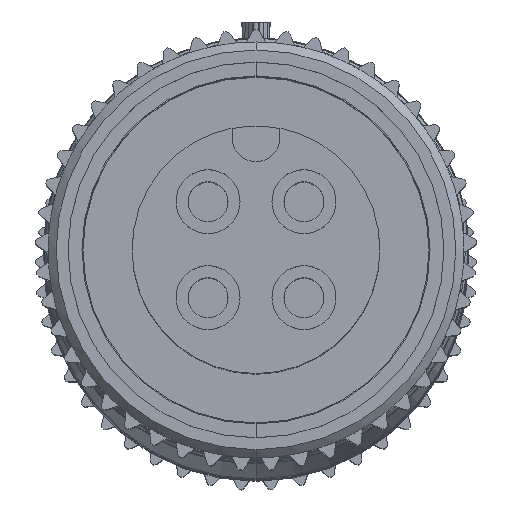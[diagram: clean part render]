
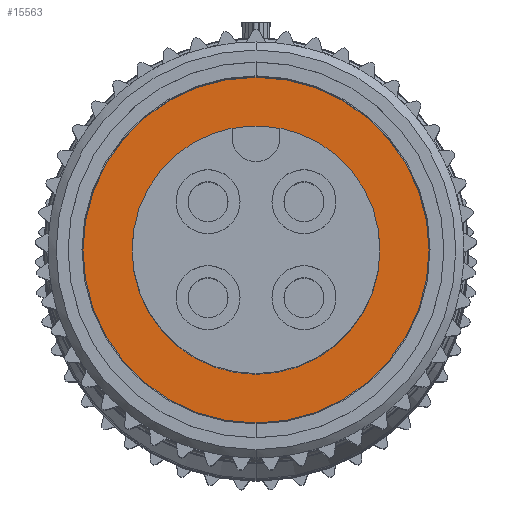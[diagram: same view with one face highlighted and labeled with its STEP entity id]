
A CAD part, top view. The second image highlights one B-rep face of the part: STEP entity #15563.
In plain terms, the highlighted planar face has unit normal (0, 0, 1).
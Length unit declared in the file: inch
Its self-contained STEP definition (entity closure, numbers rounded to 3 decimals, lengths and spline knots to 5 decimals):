
#32=CARTESIAN_POINT('',(0.,0.,-0.5));
#33=DIRECTION('',(0.,0.,-1.));
#34=DIRECTION('',(0.,-1.,0.));
#35=AXIS2_PLACEMENT_3D('',#32,#33,#34);
#37=CARTESIAN_POINT('',(0.,0.,-0.5));
#38=DIRECTION('',(0.,0.,-1.));
#39=DIRECTION('',(0.,1.,0.));
#40=AXIS2_PLACEMENT_3D('',#37,#38,#39);
#42=CARTESIAN_POINT('',(0.,0.,-0.5));
#43=DIRECTION('',(0.,0.,1.));
#44=DIRECTION('',(0.,-1.,0.));
#45=AXIS2_PLACEMENT_3D('',#42,#43,#44);
#47=CARTESIAN_POINT('',(0.,0.,-0.5));
#48=DIRECTION('',(0.,0.,1.));
#49=DIRECTION('',(0.,1.,0.));
#50=AXIS2_PLACEMENT_3D('',#47,#48,#49);
#12549=CARTESIAN_POINT('',(0.,-0.155,-0.5));
#12550=VERTEX_POINT('',#12549);
#12551=CARTESIAN_POINT('',(0.,0.155,-0.5));
#12552=VERTEX_POINT('',#12551);
#12561=CARTESIAN_POINT('',(0.,-0.2165,-0.5));
#12562=CARTESIAN_POINT('',(0.,0.2165,-0.5));
#12563=VERTEX_POINT('',#12561);
#12564=VERTEX_POINT('',#12562);
#15548=CARTESIAN_POINT('',(0.,0.,-0.5));
#15549=DIRECTION('',(0.,0.,1.));
#15550=DIRECTION('',(0.,1.,0.));
#15551=AXIS2_PLACEMENT_3D('',#15548,#15549,#15550);
#15552=PLANE('',#15551);
#15554=ORIENTED_EDGE('',*,*,#15553,.T.);
#15556=ORIENTED_EDGE('',*,*,#15555,.T.);
#15557=EDGE_LOOP('',(#15554,#15556));
#15558=FACE_OUTER_BOUND('',#15557,.F.);
#15559=ORIENTED_EDGE('',*,*,#15538,.T.);
#15560=ORIENTED_EDGE('',*,*,#15507,.T.);
#15561=EDGE_LOOP('',(#15559,#15560));
#15562=FACE_BOUND('',#15561,.F.);
#15563=ADVANCED_FACE('',(#15558,#15562),#15552,.T.);
#36=CIRCLE('',#35,0.2165);
#41=CIRCLE('',#40,0.2165);
#46=CIRCLE('',#45,0.155);
#51=CIRCLE('',#50,0.155);
#15507=EDGE_CURVE('',#12552,#12550,#51,.T.);
#15538=EDGE_CURVE('',#12550,#12552,#46,.T.);
#15553=EDGE_CURVE('',#12563,#12564,#36,.T.);
#15555=EDGE_CURVE('',#12564,#12563,#41,.T.);
